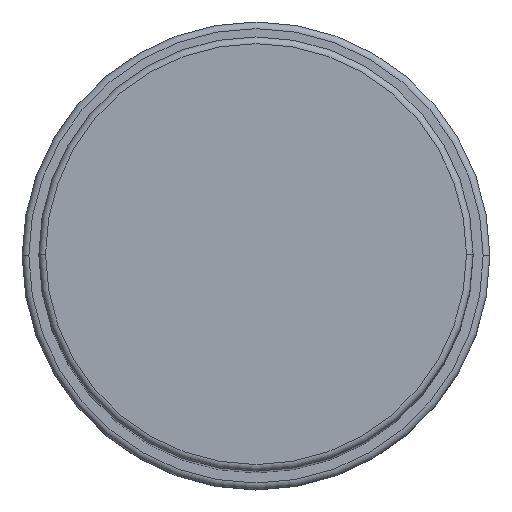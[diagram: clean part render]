
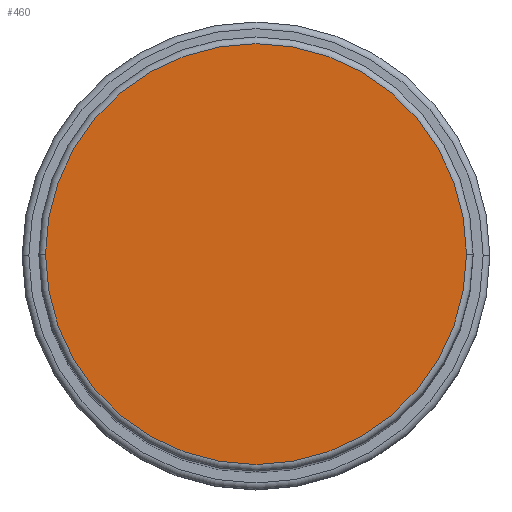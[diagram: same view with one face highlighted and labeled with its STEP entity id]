
A CAD part, top view. The second image highlights one B-rep face of the part: STEP entity #460.
In plain terms, the highlighted planar face has unit normal (0, 0, 1).
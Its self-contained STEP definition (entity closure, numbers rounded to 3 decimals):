
#64 = DIRECTION ( 'NONE',  ( 0., 0., 1. ) ) ;
#82 = CIRCLE ( 'NONE', #900, 31.5 ) ;
#122 = CARTESIAN_POINT ( 'NONE',  ( 0., 0., 163. ) ) ;
#126 = VERTEX_POINT ( 'NONE', #386 ) ;
#185 = EDGE_CURVE ( 'NONE', #1007, #126, #1590, .T. ) ;
#258 = DIRECTION ( 'NONE',  ( 0., 0., 1. ) ) ;
#268 = AXIS2_PLACEMENT_3D ( 'NONE', #122, #258, #1398 ) ;
#386 = CARTESIAN_POINT ( 'NONE',  ( 31.5, 0., 163. ) ) ;
#414 = CARTESIAN_POINT ( 'NONE',  ( -31.5, 0., 163. ) ) ;
#424 = CARTESIAN_POINT ( 'NONE',  ( 0., 0., 163. ) ) ;
#430 = EDGE_LOOP ( 'NONE', ( #568, #807 ) ) ;
#436 = FACE_OUTER_BOUND ( 'NONE', #430, .T. ) ;
#460 = ADVANCED_FACE ( 'NONE', ( #436 ), #559, .T. ) ;
#559 = PLANE ( 'NONE',  #756 ) ;
#568 = ORIENTED_EDGE ( 'NONE', *, *, #902, .T. ) ;
#756 = AXIS2_PLACEMENT_3D ( 'NONE', #1056, #64, #820 ) ;
#807 = ORIENTED_EDGE ( 'NONE', *, *, #185, .T. ) ;
#820 = DIRECTION ( 'NONE',  ( 1., 0., 0. ) ) ;
#900 = AXIS2_PLACEMENT_3D ( 'NONE', #424, #1044, #1317 ) ;
#902 = EDGE_CURVE ( 'NONE', #126, #1007, #82, .T. ) ;
#1007 = VERTEX_POINT ( 'NONE', #414 ) ;
#1044 = DIRECTION ( 'NONE',  ( 0., 0., 1. ) ) ;
#1056 = CARTESIAN_POINT ( 'NONE',  ( 0., 0., 163. ) ) ;
#1317 = DIRECTION ( 'NONE',  ( 1., 0., 0. ) ) ;
#1398 = DIRECTION ( 'NONE',  ( 1., 0., 0. ) ) ;
#1590 = CIRCLE ( 'NONE', #268, 31.5 ) ;
